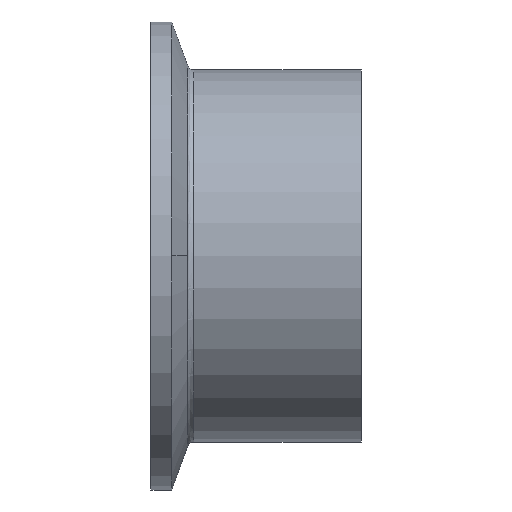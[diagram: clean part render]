
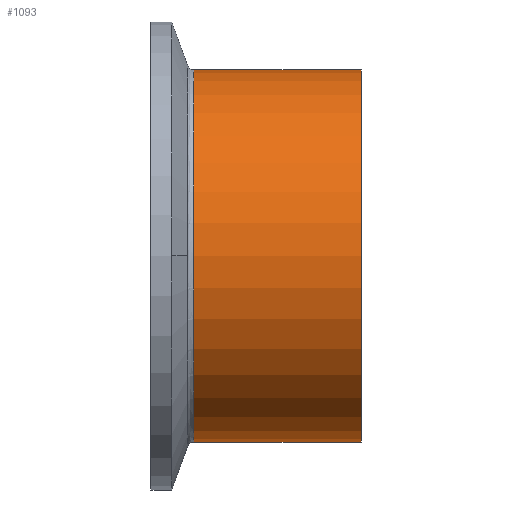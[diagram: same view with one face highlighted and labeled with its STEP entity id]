
A CAD part, top view. The second image highlights one B-rep face of the part: STEP entity #1093.
In plain terms, the highlighted cylindrical face has radius 25.4 mm (diameter 50.8 mm), a partial arc.
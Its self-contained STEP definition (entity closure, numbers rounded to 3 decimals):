
#49 = EDGE_CURVE ( 'NONE', #1362, #794, #525, .T. ) ;
#139 = CARTESIAN_POINT ( 'NONE',  ( 0., -25.4, 0. ) ) ;
#155 = EDGE_CURVE ( 'NONE', #1381, #842, #318, .T. ) ;
#182 = AXIS2_PLACEMENT_3D ( 'NONE', #567, #1365, #694 ) ;
#201 = DIRECTION ( 'NONE',  ( 1., 0., 0. ) ) ;
#219 = CARTESIAN_POINT ( 'NONE',  ( 45.786, -25.4, 0. ) ) ;
#265 = CYLINDRICAL_SURFACE ( 'NONE', #321, 25.4 ) ;
#318 = CIRCLE ( 'NONE', #182, 25.4 ) ;
#321 = AXIS2_PLACEMENT_3D ( 'NONE', #1129, #201, #1347 ) ;
#341 = DIRECTION ( 'NONE',  ( 1., 0., 0. ) ) ;
#380 = AXIS2_PLACEMENT_3D ( 'NONE', #1377, #708, #589 ) ;
#485 = EDGE_CURVE ( 'NONE', #842, #794, #852, .T. ) ;
#525 = CIRCLE ( 'NONE', #380, 25.4 ) ;
#567 = CARTESIAN_POINT ( 'NONE',  ( -22.83, 0., 0. ) ) ;
#589 = DIRECTION ( 'NONE',  ( 0., 1., 0. ) ) ;
#680 = VECTOR ( 'NONE', #341, 1000. ) ;
#694 = DIRECTION ( 'NONE',  ( 0., 1., 0. ) ) ;
#708 = DIRECTION ( 'NONE',  ( 1., 0., 0. ) ) ;
#793 = DIRECTION ( 'NONE',  ( 1., 0., 0. ) ) ;
#794 = VERTEX_POINT ( 'NONE', #139 ) ;
#842 = VERTEX_POINT ( 'NONE', #1112 ) ;
#852 = LINE ( 'NONE', #219, #680 ) ;
#913 = ORIENTED_EDGE ( 'NONE', *, *, #155, .T. ) ;
#921 = FACE_OUTER_BOUND ( 'NONE', #1054, .T. ) ;
#1032 = ORIENTED_EDGE ( 'NONE', *, *, #1449, .F. ) ;
#1054 = EDGE_LOOP ( 'NONE', ( #913, #1150, #1125, #1032 ) ) ;
#1093 = ADVANCED_FACE ( 'NONE', ( #921 ), #265, .T. ) ;
#1112 = CARTESIAN_POINT ( 'NONE',  ( -22.83, -25.4, 0. ) ) ;
#1125 = ORIENTED_EDGE ( 'NONE', *, *, #49, .F. ) ;
#1129 = CARTESIAN_POINT ( 'NONE',  ( 45.786, 0., 0. ) ) ;
#1150 = ORIENTED_EDGE ( 'NONE', *, *, #485, .T. ) ;
#1217 = LINE ( 'NONE', #1251, #1230 ) ;
#1230 = VECTOR ( 'NONE', #793, 1000. ) ;
#1238 = CARTESIAN_POINT ( 'NONE',  ( -22.83, 25.4, 0. ) ) ;
#1251 = CARTESIAN_POINT ( 'NONE',  ( 45.786, 25.4, 0. ) ) ;
#1347 = DIRECTION ( 'NONE',  ( 0., 1., 0. ) ) ;
#1362 = VERTEX_POINT ( 'NONE', #1445 ) ;
#1365 = DIRECTION ( 'NONE',  ( 1., 0., 0. ) ) ;
#1377 = CARTESIAN_POINT ( 'NONE',  ( 0., 0., 0. ) ) ;
#1381 = VERTEX_POINT ( 'NONE', #1238 ) ;
#1445 = CARTESIAN_POINT ( 'NONE',  ( 0., 25.4, 0. ) ) ;
#1449 = EDGE_CURVE ( 'NONE', #1381, #1362, #1217, .T. ) ;
